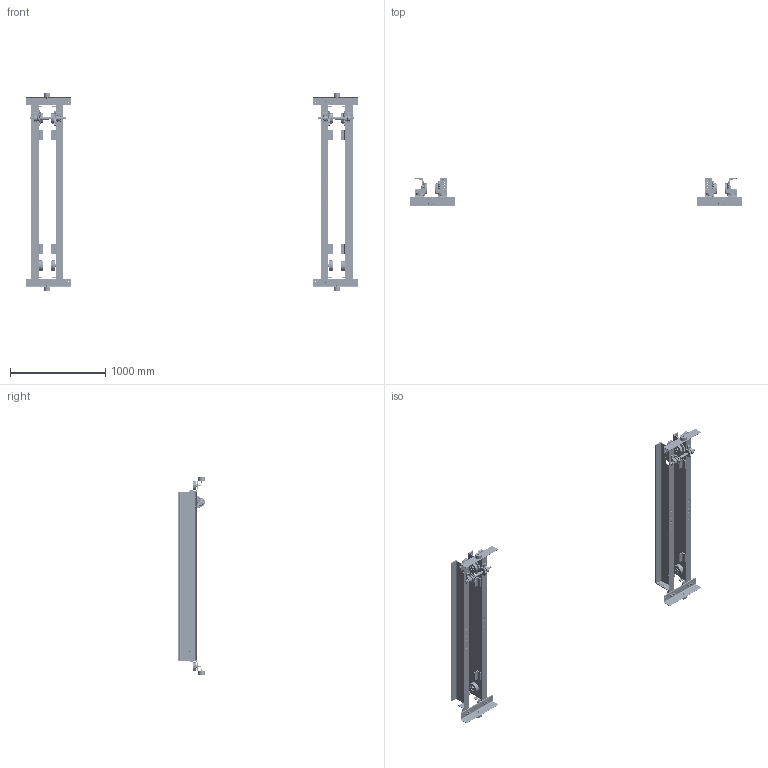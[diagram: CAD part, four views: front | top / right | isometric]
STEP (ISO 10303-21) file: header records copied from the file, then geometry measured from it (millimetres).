
FILE_DESCRIPTION (( 'STEP AP214' ), '1' );
FILE_NAME ('UG-3-0245.STEP', '2026-08-12T14:06:55', ( '' ), ( '' ), 'SwSTEP 2.0', 'SolidWorks 2026', '' );
FILE_SCHEMA (( 'AUTOMOTIVE_DESIGN' ));
Length unit declared in the file: inch
Products named in the file (55): 9000605; N6QL210115; 6232803_6232803; 62368_6236814U; 5204405_5204405; 9012519_9012519; 6232301; N6QL210209; 6232601_6232601; MC08-018.7_70; 9047120_9047120; N6QL210207; N6QO310E9108_N6QO3101108 DOMESTIC; 9043411; 9047130_9047130; 62370_6237014U; 62371_6237114U; 62369_6236914U; 9012514_9012514; 62681XX_6268103; 9093354_9093354; 6232401; 9047252_9047252; 9093424_9093424; 62367_6236714U; 9047262_B27.7M - 3BM1-62; 6234501; 9047125_B27.7M - 3AM1-23; N6QL210116; 6232404; 6232304; 9093427_9093427; 9093433_9093433; 9012515_9012515; 6257004; N6QL5101101; N6QL210113; 6234701X_6234701D; N6QL510E9101_Domestic; 9000606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
Assembly tree (255 placements, depth 4):
  UG-3-0245
    62370_6237014U  x2
      62367_6236714U
        MC08-018.7_70
        6232803_6232803
        6232803_6232803
      6232301
      6232304
      5204405_5204405
      6233203
    62369_6236914U
      62366_6236614U
        MC08-018.7_70
        6232803_6232803
        6232803_6232803
      6232301  x2
      6232304  x2
      5204405_5204405  x2
      6233203  x2
      6257004
    62371_6237114U
      62368_6236814U
        MC08-018.7_70
        6232803_6232803
        6232803_6232803
      6232301  x2
      6232304  x2
      5204405_5204405  x2
      6233203  x2
      6257004
    6234701X_6234701D  x2
    6234702X_6234702D  x2
    N6QL210207  x4
    9012514_9012514  x12
    9093101_9093101  x4
    9093424_9093424  x8
    N6QO3101108_N6QO3101108  x8
      N6QO310E9108_N6QO3101108 DOMESTIC
      9047252_9047252
      9000605
    6232404  x8
    9047125_B27.7M - 3AM1-23  x8
    9012515_9012515  x16
    9093433_9093433  x32
    9093146_9093146  x8
    6234501  x4
      6232601_6232601
      9000606
      9047262_B27.7M - 3BM1-62
    6232401  x8
    9047130_9047130  x8
    N6QL5101101  x4
      N6QL510E9101_Domestic
      9000606
      9047262_B27.7M - 3BM1-62
    N6QL210116  x4
    9012712_9012712  x8
    9043411  x8
    9093354_9093354  x8
    9093427_9093427  x8
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Bounding box: 3494.58 x 292.1 x 2084.61 mm (x, y, z)
Volume: 35324769.9 mm3; surface area: 7693213.1 mm2
Topology: 276 solids, 372 shells, 19164 faces, 50260 edges, 32992 vertices
Faces by surface type: plane 10816, cylinder 3360, bspline 3236, cone 1568, torus 184
Entity records: 136363 total; most frequent: CARTESIAN_POINT 65325, ORIENTED_EDGE 14996, DIRECTION 11716, EDGE_CURVE 7502, VERTEX_POINT 4918, AXIS2_PLACEMENT_3D 4147, LINE 3422, VECTOR 3422
